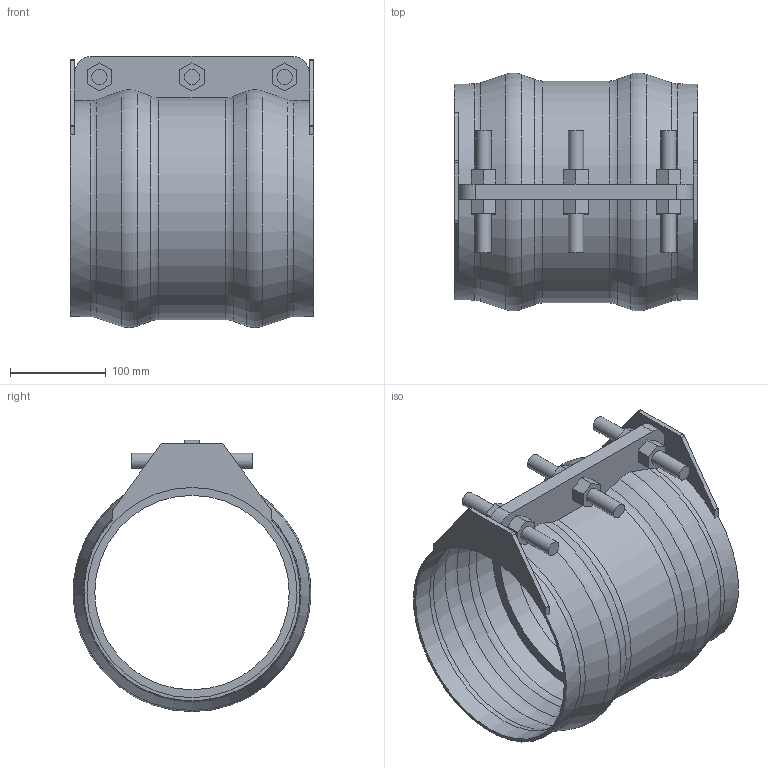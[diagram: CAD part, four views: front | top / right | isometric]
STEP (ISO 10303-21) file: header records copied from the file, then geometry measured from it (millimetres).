
FILE_DESCRIPTION(/* description */ ('VIC SS NON RESTRAINED COUPLING STYLE 229S (FLEX) (BEF)','CAx-IF Rec.Pracs.---Representation and Presentation of Product Manufacturing Information (PMI)---4.0---2014-10-13'),/* implementation_level */ '2;1');
FILE_NAME(/* name */ 'C:\Users\Vjadhav\Desktop\CAD for Inventor\1\229S\STEP\Victaulic_VBSP_Coupling Flexible Non-Restrained_Style 229S (BEF)\Victaulic_VBSP_Coupling Flexible Non-Restrained_Style 229S (BEF)_8 (200).stp',/* time_stamp */ '2021-08-26T18:16:51+06:00',/* author */ ('Vjadhav'),/* organization */ ('Victaulic'),/* preprocessor_version */ 'ST-DEVELOPER v17.2',/* originating_system */ 'Autodesk Inventor 2019',/* authorisation */ '');
FILE_SCHEMA (('AP242_MANAGED_MODEL_BASED_3D_ENGINEERING_MIM_LF { 1 0 10303 442 1 1 4 }'));
Length unit declared in the file: inch
Products named in the file (1): 229S-08.0
Bounding box: 254 x 248.16 x 282.91 mm (x, y, z)
Volume: 1051045.8 mm3; surface area: 458191.3 mm2
Topology: 1 solids, 1 shells, 111 faces, 301 edges, 206 vertices
Faces by surface type: plane 67, cylinder 24, torus 12, cone 8
Full cylindrical faces by diameter (mm): 15.875 x6, 202.717 x1, 219.075 x2, 225.425 x2
Entity records: 3858 total; most frequent: CARTESIAN_POINT 732, DIRECTION 633, ORIENTED_EDGE 602, EDGE_CURVE 301, AXIS2_PLACEMENT_3D 227, VERTEX_POINT 206, LINE 179, VECTOR 179
